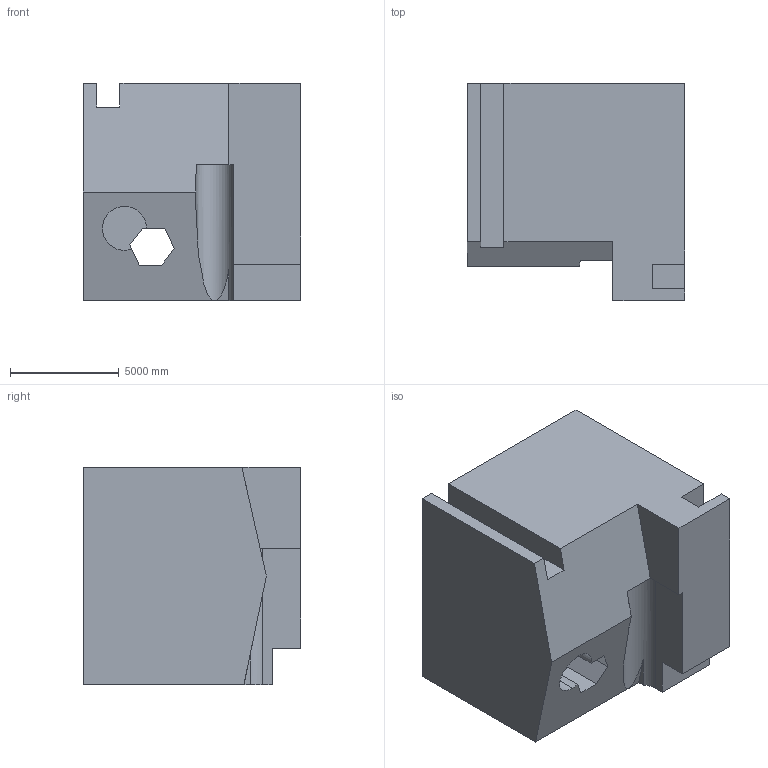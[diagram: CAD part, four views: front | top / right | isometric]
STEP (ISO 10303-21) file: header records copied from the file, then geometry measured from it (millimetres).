
FILE_DESCRIPTION (( 'STEP AP203' ), '1' );
FILE_NAME ('151.STEP', '2022-08-31T11:57:20', ( 'user' ), ( '' ), 'SwSTEP 2.0', 'SolidWorks 2021', '' );
FILE_SCHEMA (( 'CONFIG_CONTROL_DESIGN' ));
Length unit declared in the file: centimetre
Products named in the file (1): 151
Bounding box: 10000 x 10000 x 10000 mm (x, y, z)
Volume: 762644954211.3 mm3; surface area: 712933874.7 mm2
Topology: 1 solids, 1 shells, 38 faces, 104 edges, 69 vertices
Faces by surface type: plane 32, cylinder 6
Entity records: 1270 total; most frequent: CARTESIAN_POINT 230, ORIENTED_EDGE 208, DIRECTION 185, EDGE_CURVE 104, VECTOR 89, LINE 89, VERTEX_POINT 69, AXIS2_PLACEMENT_3D 48
